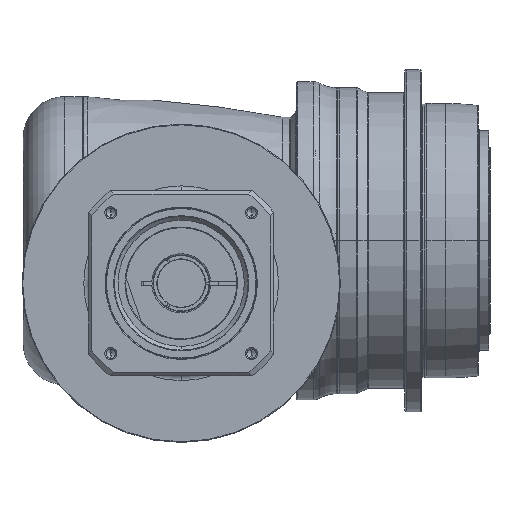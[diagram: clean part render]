
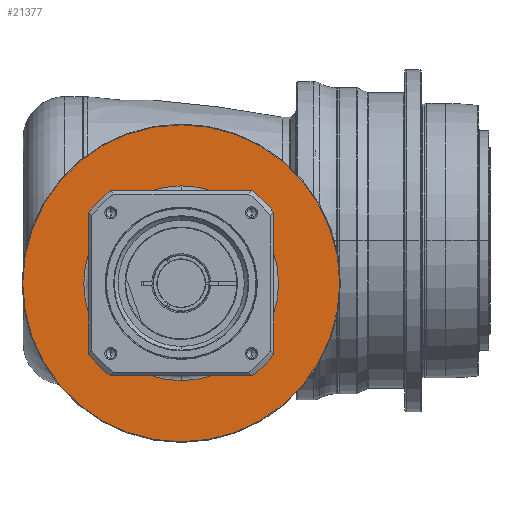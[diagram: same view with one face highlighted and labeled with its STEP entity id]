
A CAD part, front view. The second image highlights one B-rep face of the part: STEP entity #21377.
In plain terms, the highlighted planar face has unit normal (0, -1, 0) as drawn and (1, 0, 0) by its records, which use the part's own axes.
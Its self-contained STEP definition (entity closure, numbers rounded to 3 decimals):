
#20008=CARTESIAN_POINT('',(-7.5,0.,0.));
#20009=DIRECTION('',(-1.,0.,0.));
#20010=DIRECTION('',(0.,-1.,0.));
#20011=AXIS2_PLACEMENT_3D('',#20008,#20009,#20010);
#20013=CARTESIAN_POINT('',(-7.5,0.,0.));
#20014=DIRECTION('',(-1.,0.,0.));
#20015=DIRECTION('',(0.,1.,0.));
#20016=AXIS2_PLACEMENT_3D('',#20013,#20014,#20015);
#20018=CARTESIAN_POINT('',(-7.5,0.,0.));
#20019=DIRECTION('',(-1.,0.,0.));
#20020=DIRECTION('',(0.,-1.,0.));
#20021=AXIS2_PLACEMENT_3D('',#20018,#20019,#20020);
#20023=CARTESIAN_POINT('',(-7.5,0.,0.));
#20024=DIRECTION('',(-1.,0.,0.));
#20025=DIRECTION('',(0.,1.,0.));
#20026=AXIS2_PLACEMENT_3D('',#20023,#20024,#20025);
#20301=CARTESIAN_POINT('',(-7.5,-115.5,0.));
#20302=CARTESIAN_POINT('',(-7.5,115.5,0.));
#20303=VERTEX_POINT('',#20301);
#20304=VERTEX_POINT('',#20302);
#20317=CARTESIAN_POINT('',(-7.5,-71.,0.));
#20318=CARTESIAN_POINT('',(-7.5,71.,0.));
#20319=VERTEX_POINT('',#20317);
#20320=VERTEX_POINT('',#20318);
#21362=CARTESIAN_POINT('',(-7.5,0.,0.));
#21363=DIRECTION('',(1.,0.,0.));
#21364=DIRECTION('',(0.,-1.,0.));
#21365=AXIS2_PLACEMENT_3D('',#21362,#21363,#21364);
#21366=PLANE('',#21365);
#21367=ORIENTED_EDGE('',*,*,#21318,.T.);
#21368=ORIENTED_EDGE('',*,*,#21303,.T.);
#21369=EDGE_LOOP('',(#21367,#21368));
#21370=FACE_OUTER_BOUND('',#21369,.F.);
#21372=ORIENTED_EDGE('',*,*,#21371,.F.);
#21374=ORIENTED_EDGE('',*,*,#21373,.F.);
#21375=EDGE_LOOP('',(#21372,#21374));
#21376=FACE_BOUND('',#21375,.F.);
#21377=ADVANCED_FACE('',(#21370,#21376),#21366,.T.);
#20012=CIRCLE('',#20011,71.);
#20017=CIRCLE('',#20016,71.);
#20022=CIRCLE('',#20021,115.5);
#20027=CIRCLE('',#20026,115.5);
#21303=EDGE_CURVE('',#20304,#20303,#20027,.T.);
#21318=EDGE_CURVE('',#20303,#20304,#20022,.T.);
#21371=EDGE_CURVE('',#20319,#20320,#20012,.T.);
#21373=EDGE_CURVE('',#20320,#20319,#20017,.T.);
